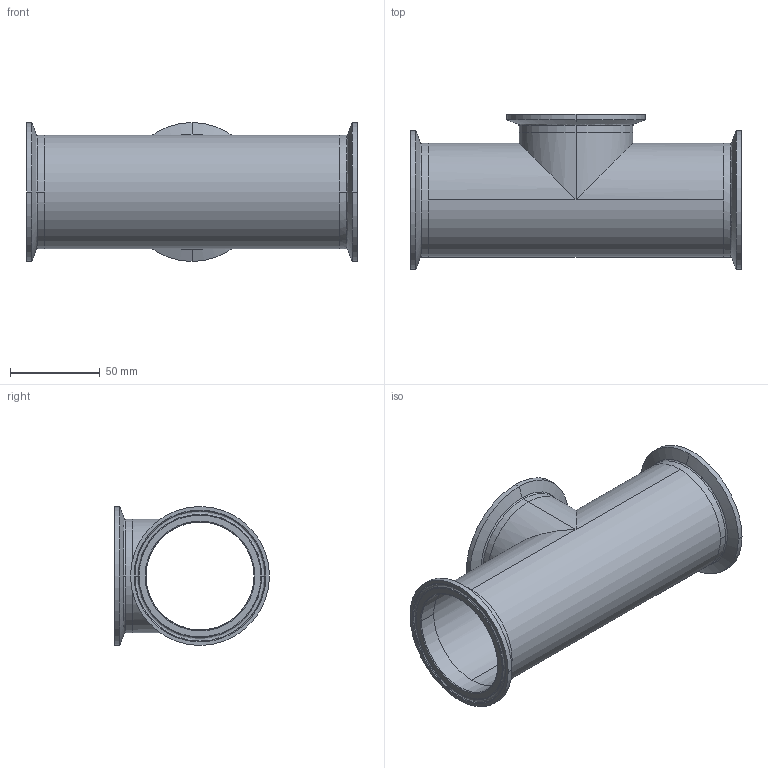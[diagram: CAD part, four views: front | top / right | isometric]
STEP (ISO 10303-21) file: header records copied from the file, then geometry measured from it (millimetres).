
FILE_DESCRIPTION (( 'STEP AP214' ), '1' );
FILE_NAME ('TEG7S6L2.5-...STEP', '2016-05-24T12:25:28', ( 'eran' ), ( '' ), 'SwSTEP 2.0', 'SolidWorks 2016', '' );
FILE_SCHEMA (( 'AUTOMOTIVE_DESIGN' ));
Length unit declared in the file: millimetre
Products named in the file (1): TEG7S6L2.5-..
Bounding box: 184.2 x 86.3 x 77.39 mm (x, y, z)
Volume: 79608.3 mm3; surface area: 86204.4 mm2
Topology: 4 solids, 4 shells, 88 faces, 220 edges, 142 vertices
Faces by surface type: bspline 30, cylinder 28, cone 18, plane 12
Entity records: 4778 total; most frequent: CARTESIAN_POINT 2617, DIRECTION 466, ORIENTED_EDGE 440, EDGE_CURVE 220, AXIS2_PLACEMENT_3D 209, CIRCLE 150, VERTEX_POINT 142, EDGE_LOOP 100
